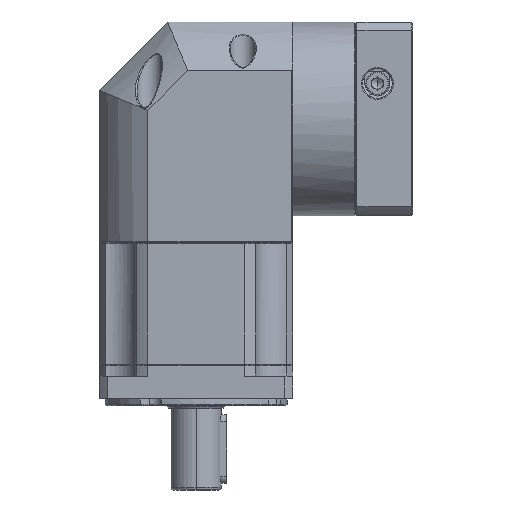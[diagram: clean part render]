
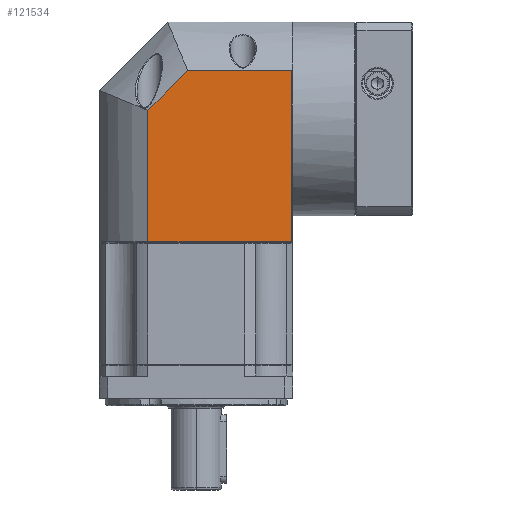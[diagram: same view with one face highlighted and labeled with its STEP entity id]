
A CAD part, front view. The second image highlights one B-rep face of the part: STEP entity #121534.
In plain terms, the highlighted planar face has unit normal (0, -1, 0).
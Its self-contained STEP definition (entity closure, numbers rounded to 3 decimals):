
#2791 = VERTEX_POINT ( 'NONE', #150586 ) ;
#3427 = FACE_OUTER_BOUND ( 'NONE', #67312, .T. ) ;
#14916 = EDGE_CURVE ( 'NONE', #63752, #26029, #87146, .T. ) ;
#24676 = LINE ( 'NONE', #88309, #96783 ) ;
#26029 = VERTEX_POINT ( 'NONE', #145547 ) ;
#35481 = LINE ( 'NONE', #38108, #139131 ) ;
#36207 = ORIENTED_EDGE ( 'NONE', *, *, #119892, .T. ) ;
#38108 = CARTESIAN_POINT ( 'NONE',  ( 56.341, 105.885, -45.14 ) ) ;
#39857 = CARTESIAN_POINT ( 'NONE',  ( -7.372, 105.885, 12.543 ) ) ;
#50240 = VECTOR ( 'NONE', #91729, 1000. ) ;
#57905 = VERTEX_POINT ( 'NONE', #59378 ) ;
#59378 = CARTESIAN_POINT ( 'NONE',  ( -7.372, 105.885, -45.14 ) ) ;
#63752 = VERTEX_POINT ( 'NONE', #39857 ) ;
#66348 = DIRECTION ( 'NONE',  ( 0.707, 0., 0.707 ) ) ;
#67312 = EDGE_LOOP ( 'NONE', ( #36207, #150565, #73999, #90193, #68434 ) ) ;
#68434 = ORIENTED_EDGE ( 'NONE', *, *, #140969, .F. ) ;
#68666 = DIRECTION ( 'NONE',  ( 0., 1., 0. ) ) ;
#73999 = ORIENTED_EDGE ( 'NONE', *, *, #82666, .F. ) ;
#75263 = DIRECTION ( 'NONE',  ( 1., 0., 0. ) ) ;
#79087 = VECTOR ( 'NONE', #109970, 1000. ) ;
#80306 = EDGE_CURVE ( 'NONE', #125806, #2791, #118094, .T. ) ;
#80659 = DIRECTION ( 'NONE',  ( 1., 0., 0. ) ) ;
#82666 = EDGE_CURVE ( 'NONE', #26029, #125806, #24676, .T. ) ;
#87146 = LINE ( 'NONE', #147293, #159029 ) ;
#88309 = CARTESIAN_POINT ( 'NONE',  ( 56.341, 105.885, 30.073 ) ) ;
#89121 = AXIS2_PLACEMENT_3D ( 'NONE', #149617, #68666, #163173 ) ;
#90193 = ORIENTED_EDGE ( 'NONE', *, *, #14916, .F. ) ;
#91729 = DIRECTION ( 'NONE',  ( 0., 0., -1. ) ) ;
#95372 = PLANE ( 'NONE',  #89121 ) ;
#96388 = CARTESIAN_POINT ( 'NONE',  ( -7.372, 105.885, 51.36 ) ) ;
#96783 = VECTOR ( 'NONE', #75263, 1000. ) ;
#109970 = DIRECTION ( 'NONE',  ( 0., 0., 1. ) ) ;
#118094 = LINE ( 'NONE', #146655, #50240 ) ;
#119892 = EDGE_CURVE ( 'NONE', #57905, #2791, #35481, .T. ) ;
#121534 = ADVANCED_FACE ( 'NONE', ( #3427 ), #95372, .F. ) ;
#125806 = VERTEX_POINT ( 'NONE', #126115 ) ;
#126115 = CARTESIAN_POINT ( 'NONE',  ( 55.841, 105.885, 30.073 ) ) ;
#139131 = VECTOR ( 'NONE', #80659, 1000. ) ;
#140969 = EDGE_CURVE ( 'NONE', #57905, #63752, #155226, .T. ) ;
#145547 = CARTESIAN_POINT ( 'NONE',  ( 10.158, 105.885, 30.073 ) ) ;
#146655 = CARTESIAN_POINT ( 'NONE',  ( 55.841, 105.885, 51.36 ) ) ;
#147293 = CARTESIAN_POINT ( 'NONE',  ( -7.372, 105.885, 12.543 ) ) ;
#149617 = CARTESIAN_POINT ( 'NONE',  ( 56.341, 105.885, 51.36 ) ) ;
#150565 = ORIENTED_EDGE ( 'NONE', *, *, #80306, .F. ) ;
#150586 = CARTESIAN_POINT ( 'NONE',  ( 55.841, 105.885, -45.14 ) ) ;
#155226 = LINE ( 'NONE', #96388, #79087 ) ;
#159029 = VECTOR ( 'NONE', #66348, 1000. ) ;
#163173 = DIRECTION ( 'NONE',  ( -1., 0., 0. ) ) ;
